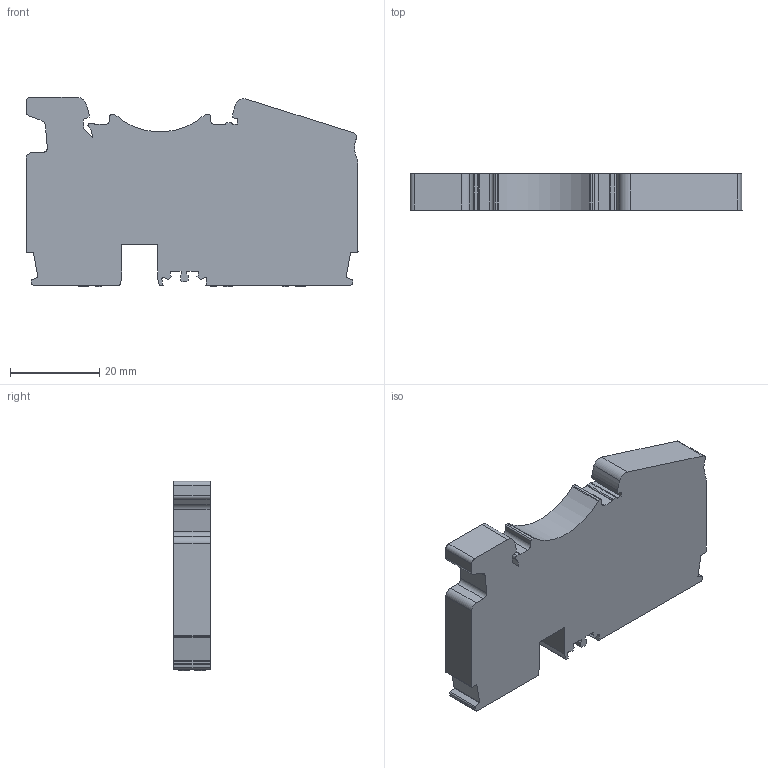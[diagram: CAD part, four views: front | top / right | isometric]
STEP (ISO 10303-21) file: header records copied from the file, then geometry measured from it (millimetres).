
FILE_DESCRIPTION((''),'2;1');
FILE_NAME('PRT0009','2022-03-09T',('Administrator'),(''),'PRO/ENGINEER BY PARAMETRIC TECHNOLOGY CORPORATION, 2014000','PRO/ENGINEER BY PARAMETRIC TECHNOLOGY CORPORATION, 2014000','');
FILE_SCHEMA(('CONFIG_CONTROL_DESIGN'));
Length unit declared in the file: millimetre
Products named in the file (1): PRT0009
Bounding box: 74.2 x 8.15 x 42.35 mm (x, y, z)
Volume: 20023 mm3; surface area: 8324.6 mm2
Topology: 1 solids, 1 shells, 390 faces, 1090 edges, 702 vertices
Faces by surface type: plane 212, cylinder 148, torus 18, sphere 6, bspline 6
Entity records: 13036 total; most frequent: CARTESIAN_POINT 2906, ORIENTED_EDGE 2168, DIRECTION 2074, EDGE_CURVE 1084, VECTOR 738, LINE 738, VERTEX_POINT 702, AXIS2_PLACEMENT_3D 668
